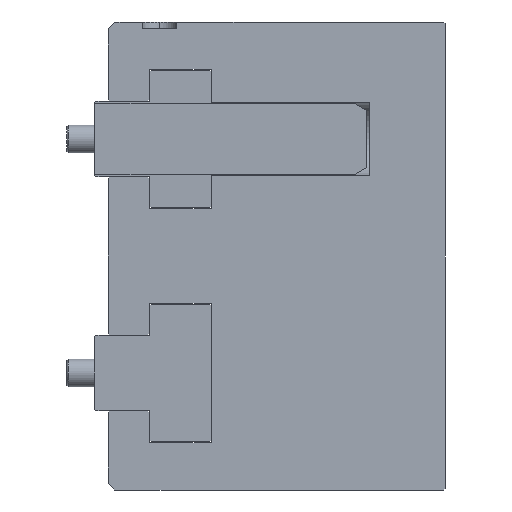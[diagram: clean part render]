
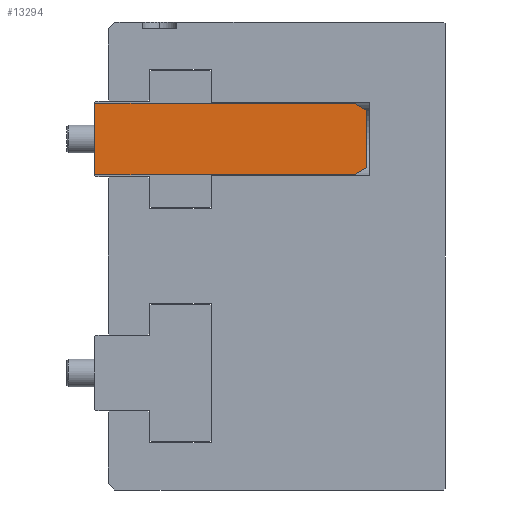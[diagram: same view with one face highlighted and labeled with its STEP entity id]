
A CAD part, left-side view. The second image highlights one B-rep face of the part: STEP entity #13294.
In plain terms, the highlighted planar face has unit normal (-1, 0, 0).
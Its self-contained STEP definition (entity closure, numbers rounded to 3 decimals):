
#79 = DIRECTION ( 'NONE',  ( 0., -1., 0. ) ) ;
#3570 = CARTESIAN_POINT ( 'NONE',  ( -120., -45., -10.35 ) ) ;
#3901 = VECTOR ( 'NONE', #33680, 1000. ) ;
#3988 = LINE ( 'NONE', #10937, #13596 ) ;
#4659 = VERTEX_POINT ( 'NONE', #41472 ) ;
#4909 = CARTESIAN_POINT ( 'NONE',  ( -120., 33.499, 10.35 ) ) ;
#5595 = VERTEX_POINT ( 'NONE', #27433 ) ;
#6537 = CARTESIAN_POINT ( 'NONE',  ( -120., -41.5, 10.35 ) ) ;
#6616 = VERTEX_POINT ( 'NONE', #13966 ) ;
#6702 = VECTOR ( 'NONE', #27734, 1000. ) ;
#6712 = EDGE_CURVE ( 'NONE', #7911, #40009, #3988, .T. ) ;
#6867 = EDGE_CURVE ( 'NONE', #24267, #6616, #38868, .T. ) ;
#7185 = DIRECTION ( 'NONE',  ( 0., 1., 0. ) ) ;
#7751 = ORIENTED_EDGE ( 'NONE', *, *, #6867, .T. ) ;
#7911 = VERTEX_POINT ( 'NONE', #41763 ) ;
#8672 = CARTESIAN_POINT ( 'NONE',  ( -120., 33.999, -9.85 ) ) ;
#8695 = EDGE_CURVE ( 'NONE', #7911, #23258, #22996, .T. ) ;
#8722 = DIRECTION ( 'NONE',  ( -1., 0., 0. ) ) ;
#9050 = EDGE_CURVE ( 'NONE', #6616, #5595, #16269, .T. ) ;
#9740 = ORIENTED_EDGE ( 'NONE', *, *, #6712, .F. ) ;
#10498 = VECTOR ( 'NONE', #42912, 1000. ) ;
#10937 = CARTESIAN_POINT ( 'NONE',  ( -120., -45., 10.35 ) ) ;
#11417 = CARTESIAN_POINT ( 'NONE',  ( -120., 33.999, 9.85 ) ) ;
#11549 = LINE ( 'NONE', #35974, #37971 ) ;
#12637 = EDGE_CURVE ( 'NONE', #5595, #40009, #38061, .T. ) ;
#13294 = ADVANCED_FACE ( 'NONE', ( #18346 ), #26657, .T. ) ;
#13507 = LINE ( 'NONE', #8672, #32605 ) ;
#13596 = VECTOR ( 'NONE', #79, 1000. ) ;
#13802 = ORIENTED_EDGE ( 'NONE', *, *, #8695, .T. ) ;
#13966 = CARTESIAN_POINT ( 'NONE',  ( -120., -45., -8.329 ) ) ;
#14909 = EDGE_CURVE ( 'NONE', #24267, #30236, #21074, .T. ) ;
#14933 = EDGE_CURVE ( 'NONE', #23258, #4659, #11549, .T. ) ;
#16269 = LINE ( 'NONE', #16887, #6702 ) ;
#16887 = CARTESIAN_POINT ( 'NONE',  ( -120., -45., -10.35 ) ) ;
#18331 = EDGE_LOOP ( 'NONE', ( #36033, #40116, #7751, #36034, #29076, #9740, #13802, #25444 ) ) ;
#18346 = FACE_OUTER_BOUND ( 'NONE', #18331, .T. ) ;
#18721 = EDGE_CURVE ( 'NONE', #30236, #4659, #13507, .T. ) ;
#19949 = VECTOR ( 'NONE', #7185, 1000. ) ;
#21074 = LINE ( 'NONE', #3570, #19949 ) ;
#21616 = DIRECTION ( 'NONE',  ( 0., 0., -1. ) ) ;
#22675 = CARTESIAN_POINT ( 'NONE',  ( -120., -41.5, -10.35 ) ) ;
#22996 = LINE ( 'NONE', #4909, #3901 ) ;
#23258 = VERTEX_POINT ( 'NONE', #11417 ) ;
#24076 = AXIS2_PLACEMENT_3D ( 'NONE', #37351, #8722, #33887 ) ;
#24267 = VERTEX_POINT ( 'NONE', #27650 ) ;
#25444 = ORIENTED_EDGE ( 'NONE', *, *, #14933, .T. ) ;
#26657 = PLANE ( 'NONE',  #24076 ) ;
#27433 = CARTESIAN_POINT ( 'NONE',  ( -120., -45., 8.329 ) ) ;
#27650 = CARTESIAN_POINT ( 'NONE',  ( -120., -41.5, -10.35 ) ) ;
#27734 = DIRECTION ( 'NONE',  ( 0., 0., 1. ) ) ;
#29076 = ORIENTED_EDGE ( 'NONE', *, *, #12637, .T. ) ;
#29303 = VECTOR ( 'NONE', #32805, 1000. ) ;
#30236 = VERTEX_POINT ( 'NONE', #33203 ) ;
#32605 = VECTOR ( 'NONE', #33841, 1000. ) ;
#32805 = DIRECTION ( 'NONE',  ( 0., -0.866, 0.5 ) ) ;
#33203 = CARTESIAN_POINT ( 'NONE',  ( -120., 33.499, -10.35 ) ) ;
#33680 = DIRECTION ( 'NONE',  ( 0., 0.707, -0.707 ) ) ;
#33841 = DIRECTION ( 'NONE',  ( 0., 0.707, 0.707 ) ) ;
#33887 = DIRECTION ( 'NONE',  ( 0., 0., 1. ) ) ;
#35974 = CARTESIAN_POINT ( 'NONE',  ( -120., 33.999, 10.35 ) ) ;
#36033 = ORIENTED_EDGE ( 'NONE', *, *, #18721, .F. ) ;
#36034 = ORIENTED_EDGE ( 'NONE', *, *, #9050, .T. ) ;
#37351 = CARTESIAN_POINT ( 'NONE',  ( -120., -45., -10.35 ) ) ;
#37971 = VECTOR ( 'NONE', #21616, 1000. ) ;
#38061 = LINE ( 'NONE', #42762, #10498 ) ;
#38868 = LINE ( 'NONE', #22675, #29303 ) ;
#40009 = VERTEX_POINT ( 'NONE', #6537 ) ;
#40116 = ORIENTED_EDGE ( 'NONE', *, *, #14909, .F. ) ;
#41472 = CARTESIAN_POINT ( 'NONE',  ( -120., 33.999, -9.85 ) ) ;
#41763 = CARTESIAN_POINT ( 'NONE',  ( -120., 33.499, 10.35 ) ) ;
#42762 = CARTESIAN_POINT ( 'NONE',  ( -120., -45., 8.329 ) ) ;
#42912 = DIRECTION ( 'NONE',  ( 0., 0.866, 0.5 ) ) ;
